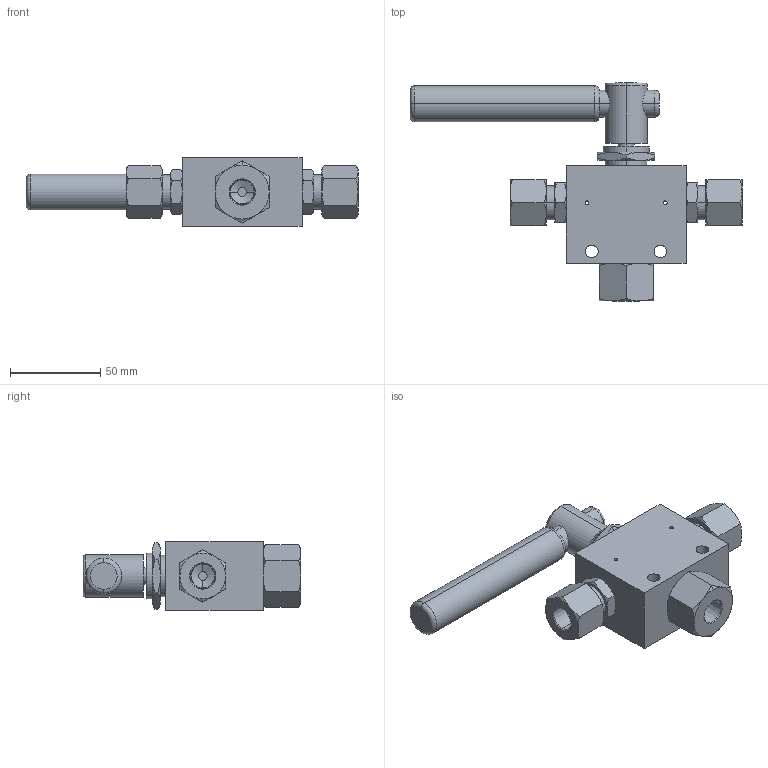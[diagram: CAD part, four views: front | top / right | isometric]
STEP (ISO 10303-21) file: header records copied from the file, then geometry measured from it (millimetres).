
FILE_DESCRIPTION (( 'STEP AP203' ), '1' );
FILE_NAME ('BVN03S04-3-180.STEP', '2022-04-07T10:03:52', ( '' ), ( '' ), 'SwSTEP 2.0', 'SolidWorks 2020', '' );
FILE_SCHEMA (( 'CONFIG_CONTROL_DESIGN' ));
Length unit declared in the file: millimetre
Products named in the file (1): BVN03S04-3-180
Bounding box: 184.33 x 121 x 38 mm (x, y, z)
Volume: 228171.3 mm3; surface area: 41485.6 mm2
Topology: 1 solids, 1 shells, 211 faces, 460 edges, 266 vertices
Faces by surface type: cone 108, plane 59, cylinder 36, torus 8
Entity records: 6431 total; most frequent: CARTESIAN_POINT 1922, DIRECTION 920, ORIENTED_EDGE 912, EDGE_CURVE 456, AXIS2_PLACEMENT_3D 400, VERTEX_POINT 266, EDGE_LOOP 238, FACE_OUTER_BOUND 211
